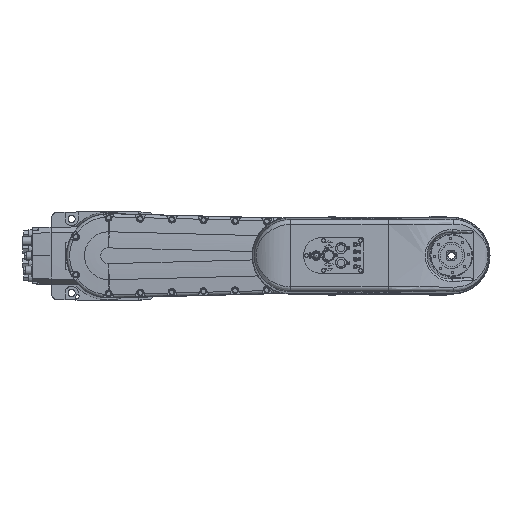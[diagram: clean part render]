
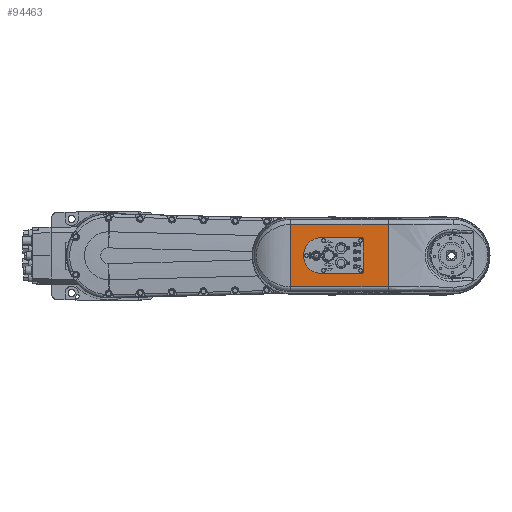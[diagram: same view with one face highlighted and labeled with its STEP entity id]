
A CAD part, top view. The second image highlights one B-rep face of the part: STEP entity #94463.
In plain terms, the highlighted planar face has unit normal (0, 0, 1).
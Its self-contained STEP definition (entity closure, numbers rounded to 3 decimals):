
#50 = EDGE_CURVE ( 'NONE', #82680, #31856, #44702, .T. ) ;
#372 = FACE_BOUND ( 'NONE', #83865, .T. ) ;
#634 = CARTESIAN_POINT ( 'NONE',  ( 482.5, 34., 457.7 ) ) ;
#3015 = ORIENTED_EDGE ( 'NONE', *, *, #29773, .F. ) ;
#3043 = EDGE_CURVE ( 'NONE', #9674, #78047, #34217, .T. ) ;
#4416 = CARTESIAN_POINT ( 'NONE',  ( 345., -705.242, 457.7 ) ) ;
#4453 = VECTOR ( 'NONE', #40091, 1000. ) ;
#4693 = EDGE_CURVE ( 'NONE', #9674, #31856, #12644, .T. ) ;
#4906 = DIRECTION ( 'NONE',  ( 1., 0., 0. ) ) ;
#4945 = CARTESIAN_POINT ( 'NONE',  ( 482.5, 34., 457.7 ) ) ;
#5712 = DIRECTION ( 'NONE',  ( 0., 0., 1. ) ) ;
#6868 = CARTESIAN_POINT ( 'NONE',  ( 481.672, -34., 457.7 ) ) ;
#7994 = CARTESIAN_POINT ( 'NONE',  ( 482.5, 33.172, 457.7 ) ) ;
#9674 = VERTEX_POINT ( 'NONE', #21101 ) ;
#12379 = DIRECTION ( 'NONE',  ( 0., 1., 0. ) ) ;
#12603 = PLANE ( 'NONE',  #81575 ) ;
#12644 = LINE ( 'NONE', #4945, #85674 ) ;
#12933 = CARTESIAN_POINT ( 'NONE',  ( 403.5, -34., 457.7 ) ) ;
#14517 = EDGE_CURVE ( 'NONE', #28227, #36698, #70982, .T. ) ;
#14809 = ORIENTED_EDGE ( 'NONE', *, *, #14517, .F. ) ;
#15221 = VECTOR ( 'NONE', #28002, 1000. ) ;
#15756 = LINE ( 'NONE', #94297, #95337 ) ;
#18212 = CARTESIAN_POINT ( 'NONE',  ( 530., -59.156, 457.7 ) ) ;
#19893 = CARTESIAN_POINT ( 'NONE',  ( 345., -59.156, 457.7 ) ) ;
#20318 = LINE ( 'NONE', #4416, #15221 ) ;
#21101 = CARTESIAN_POINT ( 'NONE',  ( 482.5, -32.001, 457.7 ) ) ;
#21799 = EDGE_CURVE ( 'NONE', #36698, #78047, #29594, .T. ) ;
#22433 = ORIENTED_EDGE ( 'NONE', *, *, #85180, .T. ) ;
#23391 = CARTESIAN_POINT ( 'NONE',  ( 480.501, 34., 457.7 ) ) ;
#24447 = VERTEX_POINT ( 'NONE', #19893 ) ;
#27741 = VECTOR ( 'NONE', #91223, 1000. ) ;
#28002 = DIRECTION ( 'NONE',  ( 0., 1., 0. ) ) ;
#28227 = VERTEX_POINT ( 'NONE', #42158 ) ;
#28584 = CARTESIAN_POINT ( 'NONE',  ( 482.5, -34., 457.7 ) ) ;
#28785 = CARTESIAN_POINT ( 'NONE',  ( 403.5, 0., 457.7 ) ) ;
#28968 = ORIENTED_EDGE ( 'NONE', *, *, #50, .T. ) ;
#29594 = LINE ( 'NONE', #28584, #27741 ) ;
#29773 = EDGE_CURVE ( 'NONE', #82680, #28227, #79139, .T. ) ;
#30571 = VECTOR ( 'NONE', #43155, 1000. ) ;
#31245 = ORIENTED_EDGE ( 'NONE', *, *, #64309, .T. ) ;
#31856 = VERTEX_POINT ( 'NONE', #92208 ) ;
#32136 = DIRECTION ( 'NONE',  ( 0., 1., 0. ) ) ;
#33348 = EDGE_CURVE ( 'NONE', #24447, #51218, #20318, .T. ) ;
#34217 =( BOUNDED_CURVE ( )  B_SPLINE_CURVE ( 3, ( #92071, #53524, #6868, #38142 ),
 .UNSPECIFIED., .F., .T. ) 
 B_SPLINE_CURVE_WITH_KNOTS ( ( 4, 4 ),
 ( 2.357, 3.927 ),
 .UNSPECIFIED. ) 
 CURVE ( )  GEOMETRIC_REPRESENTATION_ITEM ( )  RATIONAL_B_SPLINE_CURVE ( ( 1., 0.805, 0.805, 1. ) ) 
 REPRESENTATION_ITEM ( '' )  );
#34438 = CARTESIAN_POINT ( 'NONE',  ( 345., 59.156, 457.7 ) ) ;
#34664 = DIRECTION ( 'NONE',  ( 0., 0., 1. ) ) ;
#36698 = VERTEX_POINT ( 'NONE', #12933 ) ;
#38142 = CARTESIAN_POINT ( 'NONE',  ( 480.501, -34., 457.7 ) ) ;
#40091 = DIRECTION ( 'NONE',  ( -1., 0., 0. ) ) ;
#42158 = CARTESIAN_POINT ( 'NONE',  ( 403.5, 34., 457.7 ) ) ;
#43155 = DIRECTION ( 'NONE',  ( -1., 0., 0. ) ) ;
#43648 = ORIENTED_EDGE ( 'NONE', *, *, #68059, .T. ) ;
#44702 =( BOUNDED_CURVE ( )  B_SPLINE_CURVE ( 3, ( #23391, #85033, #7994, #77325 ),
 .UNSPECIFIED., .F., .F. ) 
 B_SPLINE_CURVE_WITH_KNOTS ( ( 4, 4 ),
 ( 2.357, 3.927 ),
 .UNSPECIFIED. ) 
 CURVE ( )  GEOMETRIC_REPRESENTATION_ITEM ( )  RATIONAL_B_SPLINE_CURVE ( ( 1., 0.805, 0.805, 1. ) ) 
 REPRESENTATION_ITEM ( '' )  );
#47064 = VERTEX_POINT ( 'NONE', #90607 ) ;
#51218 = VERTEX_POINT ( 'NONE', #101008 ) ;
#52407 = CARTESIAN_POINT ( 'NONE',  ( 480.501, 34., 457.7 ) ) ;
#53516 = CARTESIAN_POINT ( 'NONE',  ( 530., -59.156, 457.7 ) ) ;
#53524 = CARTESIAN_POINT ( 'NONE',  ( 482.5, -33.172, 457.7 ) ) ;
#61522 = VECTOR ( 'NONE', #72627, 1000. ) ;
#64309 = EDGE_CURVE ( 'NONE', #24447, #91078, #72131, .T. ) ;
#65153 = EDGE_LOOP ( 'NONE', ( #22433, #43648, #75553, #31245 ) ) ;
#66501 = FACE_OUTER_BOUND ( 'NONE', #65153, .T. ) ;
#66800 = LINE ( 'NONE', #34438, #30571 ) ;
#68059 = EDGE_CURVE ( 'NONE', #47064, #51218, #66800, .T. ) ;
#70982 = CIRCLE ( 'NONE', #80801, 34. ) ;
#72131 = LINE ( 'NONE', #18212, #61522 ) ;
#72627 = DIRECTION ( 'NONE',  ( 1., 0., 0. ) ) ;
#75191 = CARTESIAN_POINT ( 'NONE',  ( 480.501, -34., 457.7 ) ) ;
#75553 = ORIENTED_EDGE ( 'NONE', *, *, #33348, .F. ) ;
#77325 = CARTESIAN_POINT ( 'NONE',  ( 482.5, 32.001, 457.7 ) ) ;
#78047 = VERTEX_POINT ( 'NONE', #75191 ) ;
#79139 = LINE ( 'NONE', #634, #4453 ) ;
#80042 = ORIENTED_EDGE ( 'NONE', *, *, #3043, .T. ) ;
#80801 = AXIS2_PLACEMENT_3D ( 'NONE', #28785, #5712, #12379 ) ;
#81575 = AXIS2_PLACEMENT_3D ( 'NONE', #82430, #34664, #4906 ) ;
#82430 = CARTESIAN_POINT ( 'NONE',  ( 345., 0., 457.7 ) ) ;
#82680 = VERTEX_POINT ( 'NONE', #52407 ) ;
#83865 = EDGE_LOOP ( 'NONE', ( #3015, #28968, #87322, #80042, #99754, #14809 ) ) ;
#85033 = CARTESIAN_POINT ( 'NONE',  ( 481.672, 34., 457.7 ) ) ;
#85180 = EDGE_CURVE ( 'NONE', #91078, #47064, #15756, .T. ) ;
#85674 = VECTOR ( 'NONE', #97896, 1000. ) ;
#87322 = ORIENTED_EDGE ( 'NONE', *, *, #4693, .F. ) ;
#90607 = CARTESIAN_POINT ( 'NONE',  ( 530., 59.156, 457.7 ) ) ;
#91078 = VERTEX_POINT ( 'NONE', #53516 ) ;
#91223 = DIRECTION ( 'NONE',  ( 1., 0., 0. ) ) ;
#92071 = CARTESIAN_POINT ( 'NONE',  ( 482.5, -32.001, 457.7 ) ) ;
#92208 = CARTESIAN_POINT ( 'NONE',  ( 482.5, 32.001, 457.7 ) ) ;
#94297 = CARTESIAN_POINT ( 'NONE',  ( 530., -705.455, 457.7 ) ) ;
#94463 = ADVANCED_FACE ( 'NONE', ( #372, #66501 ), #12603, .T. ) ;
#95337 = VECTOR ( 'NONE', #32136, 1000. ) ;
#97896 = DIRECTION ( 'NONE',  ( 0., 1., 0. ) ) ;
#99754 = ORIENTED_EDGE ( 'NONE', *, *, #21799, .F. ) ;
#101008 = CARTESIAN_POINT ( 'NONE',  ( 345., 59.156, 457.7 ) ) ;
